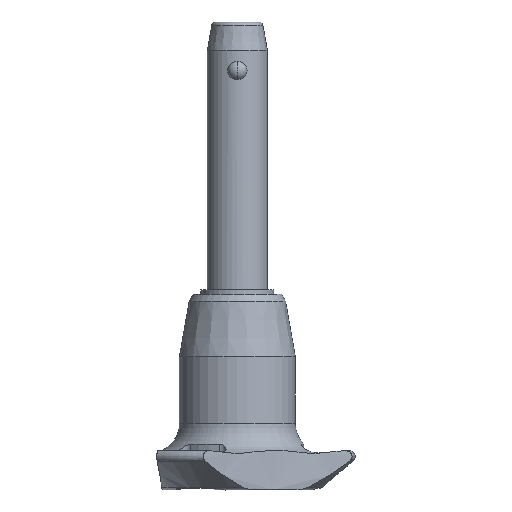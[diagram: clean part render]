
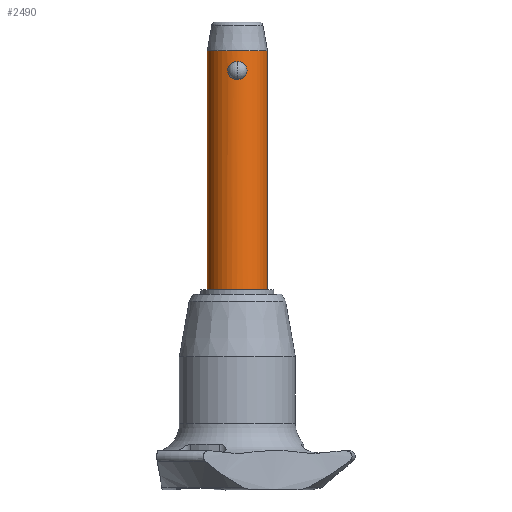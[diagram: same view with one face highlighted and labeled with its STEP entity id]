
A CAD part, front view. The second image highlights one B-rep face of the part: STEP entity #2490.
In plain terms, the highlighted cylindrical face has radius 5 mm (diameter 10 mm), a partial arc.
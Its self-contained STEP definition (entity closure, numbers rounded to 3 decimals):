
#6 = CARTESIAN_POINT ( 'NONE',  ( 0.699, -4.952, 0.144 ) ) ;
#99 = DIRECTION ( 'NONE',  ( 1., 0., 0. ) ) ;
#105 = EDGE_CURVE ( 'NONE', #754, #1500, #515, .T. ) ;
#139 = DIRECTION ( 'NONE',  ( 0., 0., -1. ) ) ;
#150 = DIRECTION ( 'NONE',  ( 1., 0., 0. ) ) ;
#180 = CARTESIAN_POINT ( 'NONE',  ( 0.7, -4.952, 2.888 ) ) ;
#193 = CARTESIAN_POINT ( 'NONE',  ( 1.048, -4.889, 2.676 ) ) ;
#196 = CARTESIAN_POINT ( 'NONE',  ( 0., -5., 0. ) ) ;
#206 = CARTESIAN_POINT ( 'NONE',  ( 1.434, -4.79, 0.822 ) ) ;
#219 = CARTESIAN_POINT ( 'NONE',  ( -1.383, -4.805, 2.299 ) ) ;
#320 = DIRECTION ( 'NONE',  ( 0., 0., 1. ) ) ;
#366 = CARTESIAN_POINT ( 'NONE',  ( 0., -5., 0. ) ) ;
#384 = CARTESIAN_POINT ( 'NONE',  ( 5., 0., -35. ) ) ;
#391 = CARTESIAN_POINT ( 'NONE',  ( 0., -5., 3.033 ) ) ;
#397 = CARTESIAN_POINT ( 'NONE',  ( 0.412, -4.987, 2.996 ) ) ;
#420 = CARTESIAN_POINT ( 'NONE',  ( -1.272, -4.838, 0.564 ) ) ;
#438 = CARTESIAN_POINT ( 'NONE',  ( 1.551, -4.753, 1.922 ) ) ;
#501 = VECTOR ( 'NONE', #2684, 1000. ) ;
#515 = LINE ( 'NONE', #2698, #501 ) ;
#559 = EDGE_CURVE ( 'NONE', #754, #669, #2518, .T. ) ;
#582 = CARTESIAN_POINT ( 'NONE',  ( -1.047, -4.89, 0.357 ) ) ;
#629 = DIRECTION ( 'NONE',  ( 0., 0., 1. ) ) ;
#631 = CARTESIAN_POINT ( 'NONE',  ( 1.56, -4.751, 1.103 ) ) ;
#639 = CARTESIAN_POINT ( 'NONE',  ( -0.699, -4.952, 0.145 ) ) ;
#641 = AXIS2_PLACEMENT_3D ( 'NONE', #2617, #697, #1394 ) ;
#643 = CARTESIAN_POINT ( 'NONE',  ( 1.384, -4.805, 0.735 ) ) ;
#645 = EDGE_CURVE ( 'NONE', #1500, #1384, #2158, .T. ) ;
#669 = VERTEX_POINT ( 'NONE', #951 ) ;
#685 = ORIENTED_EDGE ( 'NONE', *, *, #645, .T. ) ;
#697 = DIRECTION ( 'NONE',  ( 0., 0., -1. ) ) ;
#754 = VERTEX_POINT ( 'NONE', #384 ) ;
#795 = EDGE_CURVE ( 'NONE', #2311, #1975, #978, .T. ) ;
#823 = CARTESIAN_POINT ( 'NONE',  ( -1.047, -4.89, 2.676 ) ) ;
#839 = CARTESIAN_POINT ( 'NONE',  ( -1.56, -4.751, 1.931 ) ) ;
#845 = B_SPLINE_CURVE_WITH_KNOTS ( 'NONE', 3,
 ( #1859, #1917, #2716, #1258, #1884, #2113, #823, #1272, #1018, #219, #1477, #839, #1679, #1045, #2502, #2333, #1705, #1900, #420, #582, #2129, #851, #639, #1490, #2729, #366 ),
 .UNSPECIFIED., .F., .F.,
 ( 4, 2, 2, 2, 2, 2, 2, 2, 2, 2, 2, 2, 4 ),
 ( 0., 0.001, 0.001, 0.001, 0.002, 0.002, 0.002, 0.003, 0.003, 0.004, 0.004, 0.004, 0.005 ),
 .UNSPECIFIED. ) ;
#851 = CARTESIAN_POINT ( 'NONE',  ( -0.792, -4.938, 0.19 ) ) ;
#951 = CARTESIAN_POINT ( 'NONE',  ( -5., 0., -35. ) ) ;
#978 = B_SPLINE_CURVE_WITH_KNOTS ( 'NONE', 3,
 ( #2114, #1276, #1873, #6, #2575, #1467, #2130, #2520, #1708, #643, #206, #631, #2091, #1496, #2349, #438, #1455, #2310, #2547, #193, #1885, #1681, #180, #397, #1073, #1930 ),
 .UNSPECIFIED., .F., .F.,
 ( 4, 2, 2, 2, 2, 2, 2, 2, 2, 2, 2, 2, 4 ),
 ( 0.005, 0.006, 0.006, 0.006, 0.006, 0.007, 0.007, 0.008, 0.008, 0.009, 0.009, 0.009, 0.01 ),
 .UNSPECIFIED. ) ;
#1018 = CARTESIAN_POINT ( 'NONE',  ( -1.264, -4.838, 2.464 ) ) ;
#1045 = CARTESIAN_POINT ( 'NONE',  ( -1.604, -4.736, 1.416 ) ) ;
#1073 = CARTESIAN_POINT ( 'NONE',  ( 0.208, -5., 3.033 ) ) ;
#1079 = ORIENTED_EDGE ( 'NONE', *, *, #1561, .F. ) ;
#1111 = ORIENTED_EDGE ( 'NONE', *, *, #795, .F. ) ;
#1133 = AXIS2_PLACEMENT_3D ( 'NONE', #2059, #139, #150 ) ;
#1154 = FACE_OUTER_BOUND ( 'NONE', #1369, .T. ) ;
#1195 = CARTESIAN_POINT ( 'NONE',  ( 5., 0., 4.8 ) ) ;
#1196 = CYLINDRICAL_SURFACE ( 'NONE', #1722, 5. ) ;
#1215 = CARTESIAN_POINT ( 'NONE',  ( -5., 0., -35. ) ) ;
#1258 = CARTESIAN_POINT ( 'NONE',  ( -0.7, -4.952, 2.888 ) ) ;
#1272 = CARTESIAN_POINT ( 'NONE',  ( -1.197, -4.855, 2.539 ) ) ;
#1276 = CARTESIAN_POINT ( 'NONE',  ( 0.205, -5., 0. ) ) ;
#1369 = EDGE_LOOP ( 'NONE', ( #1079, #1554, #1665, #685 ) ) ;
#1373 = ORIENTED_EDGE ( 'NONE', *, *, #1589, .F. ) ;
#1384 = VERTEX_POINT ( 'NONE', #2095 ) ;
#1394 = DIRECTION ( 'NONE',  ( 1., 0., 0. ) ) ;
#1420 = CARTESIAN_POINT ( 'NONE',  ( 0., 0., -35. ) ) ;
#1454 = LINE ( 'NONE', #1215, #1896 ) ;
#1455 = CARTESIAN_POINT ( 'NONE',  ( 1.519, -4.764, 2.021 ) ) ;
#1467 = CARTESIAN_POINT ( 'NONE',  ( 0.966, -4.907, 0.296 ) ) ;
#1477 = CARTESIAN_POINT ( 'NONE',  ( -1.435, -4.79, 2.209 ) ) ;
#1490 = CARTESIAN_POINT ( 'NONE',  ( -0.412, -4.987, 0.037 ) ) ;
#1496 = CARTESIAN_POINT ( 'NONE',  ( 1.604, -4.736, 1.619 ) ) ;
#1500 = VERTEX_POINT ( 'NONE', #1195 ) ;
#1554 = ORIENTED_EDGE ( 'NONE', *, *, #559, .F. ) ;
#1561 = EDGE_CURVE ( 'NONE', #669, #1384, #1454, .T. ) ;
#1589 = EDGE_CURVE ( 'NONE', #1975, #2311, #845, .T. ) ;
#1665 = ORIENTED_EDGE ( 'NONE', *, *, #105, .T. ) ;
#1679 = CARTESIAN_POINT ( 'NONE',  ( -1.604, -4.736, 1.724 ) ) ;
#1681 = CARTESIAN_POINT ( 'NONE',  ( 0.792, -4.938, 2.844 ) ) ;
#1705 = CARTESIAN_POINT ( 'NONE',  ( -1.519, -4.764, 1.013 ) ) ;
#1708 = CARTESIAN_POINT ( 'NONE',  ( 1.265, -4.838, 0.57 ) ) ;
#1722 = AXIS2_PLACEMENT_3D ( 'NONE', #1420, #320, #99 ) ;
#1859 = CARTESIAN_POINT ( 'NONE',  ( 0., -5., 3.033 ) ) ;
#1873 = CARTESIAN_POINT ( 'NONE',  ( 0.412, -4.987, 0.037 ) ) ;
#1884 = CARTESIAN_POINT ( 'NONE',  ( -0.791, -4.938, 2.844 ) ) ;
#1885 = CARTESIAN_POINT ( 'NONE',  ( 0.966, -4.907, 2.738 ) ) ;
#1896 = VECTOR ( 'NONE', #629, 1000. ) ;
#1900 = CARTESIAN_POINT ( 'NONE',  ( -1.394, -4.802, 0.731 ) ) ;
#1917 = CARTESIAN_POINT ( 'NONE',  ( -0.208, -5., 3.033 ) ) ;
#1930 = CARTESIAN_POINT ( 'NONE',  ( 0., -5., 3.033 ) ) ;
#1975 = VERTEX_POINT ( 'NONE', #391 ) ;
#2010 = FACE_BOUND ( 'NONE', #2758, .T. ) ;
#2059 = CARTESIAN_POINT ( 'NONE',  ( 0., 0., 4.8 ) ) ;
#2091 = CARTESIAN_POINT ( 'NONE',  ( 1.604, -4.736, 1.308 ) ) ;
#2095 = CARTESIAN_POINT ( 'NONE',  ( -5., 0., 4.8 ) ) ;
#2113 = CARTESIAN_POINT ( 'NONE',  ( -0.965, -4.907, 2.738 ) ) ;
#2114 = CARTESIAN_POINT ( 'NONE',  ( 0., -5., 0. ) ) ;
#2129 = CARTESIAN_POINT ( 'NONE',  ( -0.966, -4.907, 0.296 ) ) ;
#2130 = CARTESIAN_POINT ( 'NONE',  ( 1.047, -4.89, 0.356 ) ) ;
#2158 = CIRCLE ( 'NONE', #1133, 5. ) ;
#2310 = CARTESIAN_POINT ( 'NONE',  ( 1.395, -4.802, 2.301 ) ) ;
#2311 = VERTEX_POINT ( 'NONE', #196 ) ;
#2333 = CARTESIAN_POINT ( 'NONE',  ( -1.551, -4.753, 1.11 ) ) ;
#2349 = CARTESIAN_POINT ( 'NONE',  ( 1.594, -4.739, 1.721 ) ) ;
#2490 = ADVANCED_FACE ( 'NONE', ( #1154, #2010 ), #1196, .T. ) ;
#2502 = CARTESIAN_POINT ( 'NONE',  ( -1.594, -4.739, 1.312 ) ) ;
#2518 = CIRCLE ( 'NONE', #641, 5. ) ;
#2520 = CARTESIAN_POINT ( 'NONE',  ( 1.196, -4.855, 0.493 ) ) ;
#2547 = CARTESIAN_POINT ( 'NONE',  ( 1.272, -4.838, 2.47 ) ) ;
#2575 = CARTESIAN_POINT ( 'NONE',  ( 0.792, -4.938, 0.19 ) ) ;
#2617 = CARTESIAN_POINT ( 'NONE',  ( 0., 0., -35. ) ) ;
#2684 = DIRECTION ( 'NONE',  ( 0., 0., 1. ) ) ;
#2698 = CARTESIAN_POINT ( 'NONE',  ( 5., 0., -35. ) ) ;
#2716 = CARTESIAN_POINT ( 'NONE',  ( -0.412, -4.987, 2.997 ) ) ;
#2729 = CARTESIAN_POINT ( 'NONE',  ( -0.205, -5., 0. ) ) ;
#2758 = EDGE_LOOP ( 'NONE', ( #1373, #1111 ) ) ;
